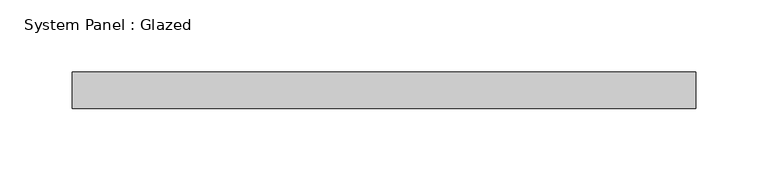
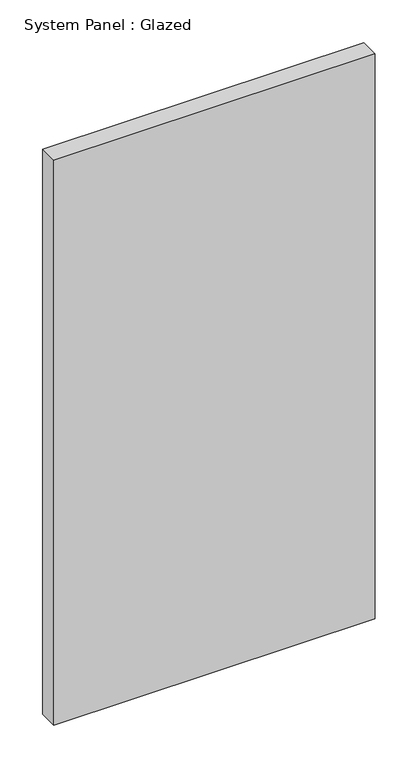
"""IFC4 building model written with IfcOpenShell, lengths in millimetres: plate geometry, System Panel : Glazed."""

from ifc_helpers import new_model, si_unit, origin, origin_with_axes, place, context, project, spatial, polyline, outline, extrude, source, transform, mapped, element, save


def system_panel_glazed_42c55a29(model_context):
    return source(origin(), model_context, "Body", "SweptSolid", [
        extrude(outline(polyline([(215.9, -44.45), (-215.9, -44.45), (-215.9, -19.05), (215.9, -19.05), (215.9, -44.45)])), origin_with_axes(), (0.0, 0.0, 1.0), 802.4190025),
    ])


if __name__ == "__main__":
    model = new_model("IFC4")
    model_context = context("Model", 3, world=origin())
    ifc_project = project(units=[si_unit("LENGTHUNIT", "METRE", prefix="MILLI")], contexts=[model_context])
    site = spatial("IfcSite", under=ifc_project)
    building = spatial("IfcBuilding", under=site)
    placement = place(None, origin())
    system_panel_glazed_shape = system_panel_glazed_42c55a29(model_context)
    element("IfcPlate", 1, ObjectType="System Panel : Glazed", at=placement, inside=building, context=model_context, shape_type="MappedRepresentation", body=[
        mapped(system_panel_glazed_shape, transform((0.0, 0.0, 0.0), x_axis=(1.0, 0.0, 0.0), y_axis=(0.0, 1.0, 0.0), z_axis=(0.0, 0.0, 1.0))),
    ])
    save(model, "model.ifc")
